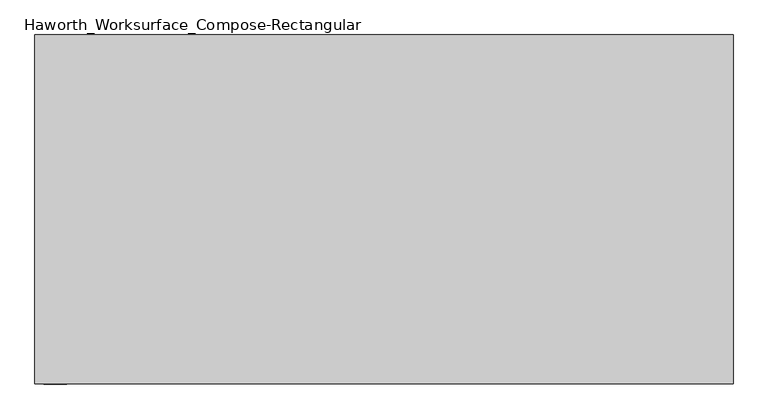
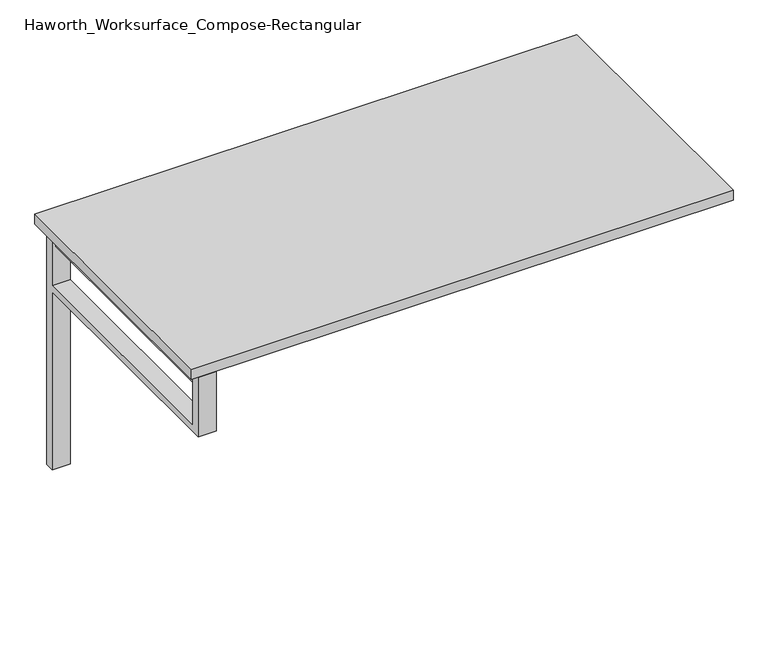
"""IFC4 building model written with IfcOpenShell, lengths in millimetres: furniture geometry, Haworth_Worksurface_Compose-Rectangular : 30'' x 60''."""

from ifc_helpers import new_model, si_unit, frame, origin, place, context, project, spatial, polyline, outline, extrude, source, transform, mapped, element, save


def haworth_worksurface_compose_rectangular_3adcce5d(model_context):
    return source(origin(), model_context, "Body", "SweptSolid", [
        extrude(outline(polyline([(-701.675, -355.6), (-733.425, -355.6), (-733.425, 330.2), (-701.675, 330.2), (-701.675, -355.6)])), frame((0.0, 0.0, 661.9875), z_axis=(0.0, 0.0, 1.0), x_axis=(1.0, 0.0, 0.0)), (0.0, 0.0, 1.0), 44.45),
        extrude(outline(polyline([(330.2, 528.6375), (-381.0, 528.6375), (-381.0, 706.4375), (-355.6, 706.4375), (-355.6, 547.6875), (330.2, 547.6875), (330.2, 706.4375), (355.6, 706.4375), (355.6, 0.0), (330.2, 0.0), (330.2, 528.6375)])), frame((-742.95, 0.0, 0.0), z_axis=(1.0, 0.0, 0.0), x_axis=(0.0, 1.0, 0.0)), (0.0, 0.0, 1.0), 50.8),
        extrude(outline(polyline([(762.0, -381.0), (-762.0, -381.0), (-762.0, 381.0), (762.0, 381.0), (762.0, -381.0)])), frame((0.0, 0.0, 706.4375), z_axis=(0.0, 0.0, 1.0), x_axis=(1.0, 0.0, 0.0)), (0.0, 0.0, 1.0), 30.1625),
    ])


if __name__ == "__main__":
    model = new_model("IFC4")
    model_context = context("Model", 3, world=origin())
    ifc_project = project(units=[si_unit("LENGTHUNIT", "METRE", prefix="MILLI")], contexts=[model_context])
    site = spatial("IfcSite", under=ifc_project)
    building = spatial("IfcBuilding", under=site)
    placement = place(None, origin())
    haworth_worksurface_compose_rectangular_shape = haworth_worksurface_compose_rectangular_3adcce5d(model_context)
    element("IfcFurniture", 1, ObjectType="Haworth_Worksurface_Compose-Rectangular : 30'' x 60''", at=placement, inside=building, context=model_context, shape_type="MappedRepresentation", body=[
        mapped(haworth_worksurface_compose_rectangular_shape, transform((0.0, 0.0, 0.0), x_axis=(1.0, 0.0, 0.0), y_axis=(0.0, 1.0, 0.0), z_axis=(0.0, 0.0, 1.0))),
    ])
    save(model, "model.ifc")
